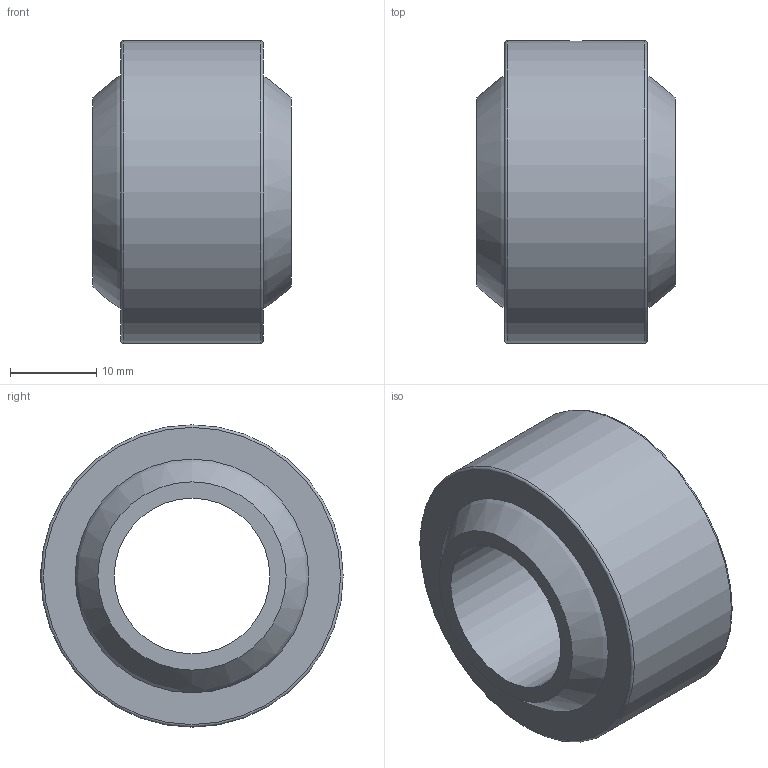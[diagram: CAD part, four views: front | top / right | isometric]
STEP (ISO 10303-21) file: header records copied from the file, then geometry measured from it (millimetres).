
FILE_DESCRIPTION( ( 'STEP AP203' ), '1' );
FILE_NAME( 'C:/Temp/Ganter_Step_05_03_2020/data/3_6/gn_648_8/gn_648_8_n/Ball joint GN 648.8-18-35-N.stp', '2020-03-12T14:14:25', ( 'License CC BY-ND 4.0' ), ( 'CADENAS' ), ' ', 'PARTsolutions', ' ' );
FILE_SCHEMA( ( 'CONFIG_CONTROL_DESIGN' ) );
Length unit declared in the file: millimetre
Products named in the file (3): Ball joint GN 648.8-18-35-N; _Ball joint GN 648.8-18-35-N-2; _Ball joint GN 648.8-18-35-N-1
Assembly tree (2 placements, depth 2):
  Ball joint GN 648.8-18-35-N
    _Ball joint GN 648.8-18-35-N-2
    _Ball joint GN 648.8-18-35-N-1
Bounding box: 23 x 35 x 35 mm (x, y, z)
Volume: 13125.8 mm3; surface area: 8033.8 mm2
Topology: 2 solids, 2 shells, 11 faces, 20 edges, 13 vertices
Faces by surface type: plane 4, cylinder 3, sphere 2, torus 2
Full cylindrical faces by diameter (mm): 2.2 x1, 18 x1, 35 x1
Entity records: 384 total; most frequent: CARTESIAN_POINT 71, DIRECTION 50, AXIS2_PLACEMENT_3D 25, EDGE_LOOP 24, ORIENTED_EDGE 24, FACE_OUTER_BOUND 18, CC_DESIGN_PERSON_AND_ORGANIZATION_ASSIGNMENT 13, EDGE_CURVE 12
